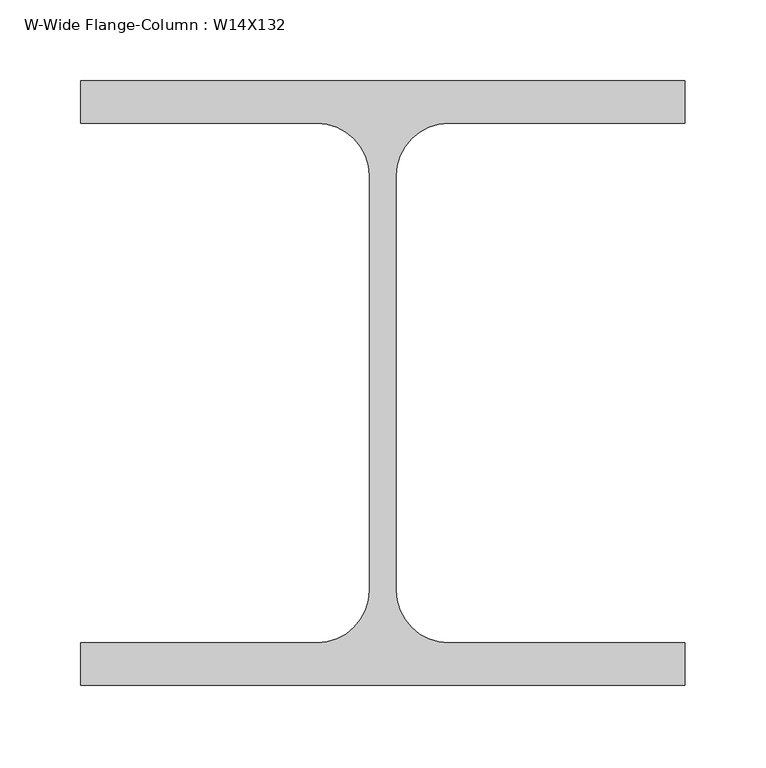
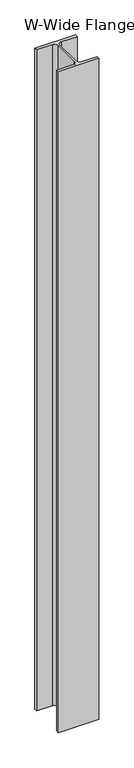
"""IFC4 building model written with IfcOpenShell, lengths in millimetres: column geometry, W-Wide Flange-Column : W14X132."""

from ifc_helpers import new_model, si_unit, point, frame, frame_2d, origin, place, context, project, spatial, polyline, circle_curve, trimmed, segment, composite_curve, outline, extrude, source, transform, mapped, element, save


def w_wide_flange_column_w14x132_b8660559(model_context):
    return source(origin(), model_context, "Body", "SweptSolid", [
        extrude(outline(composite_curve([segment(polyline([(186.69, -186.69), (-186.69, -186.69), (-186.69, -160.528), (-40.767, -160.528)]), True, "CONTINUOUS"), segment(trimmed(circle_curve(frame_2d((-40.767, -127.9525)), 32.5755), [point((-40.767, -160.528))], [point((-8.1915, -127.9525))], True, "CARTESIAN"), True, "CONTINUOUS"), segment(polyline([(-8.1915, -127.9525), (-8.1915, 127.9525)]), True, "CONTINUOUS"), segment(trimmed(circle_curve(frame_2d((-40.767, 127.9525)), 32.5755), [point((-8.1915, 127.9525))], [point((-40.767, 160.528))], True, "CARTESIAN"), True, "CONTINUOUS"), segment(polyline([(-40.767, 160.528), (-186.69, 160.528), (-186.69, 186.69), (186.69, 186.69), (186.69, 160.528), (40.767, 160.528)]), True, "CONTINUOUS"), segment(trimmed(circle_curve(frame_2d((40.767, 127.9525)), 32.5755), [point((40.767, 160.528))], [point((8.1915, 127.9525))], True, "CARTESIAN"), True, "CONTINUOUS"), segment(polyline([(8.1915, 127.9525), (8.1915, -127.9525)]), True, "CONTINUOUS"), segment(trimmed(circle_curve(frame_2d((40.767, -127.9525)), 32.5755), [point((8.1915, -127.9525))], [point((40.767, -160.528))], True, "CARTESIAN"), True, "CONTINUOUS"), segment(polyline([(40.767, -160.528), (186.69, -160.528), (186.69, -186.69)]), True, "CONTINUOUS")], self_intersect=False)), frame((0.0, 0.0, -457.2), z_axis=(0.0, 0.0, 1.0), x_axis=(1.0, 0.0, 0.0)), (0.0, 0.0, 1.0), 6426.2),
    ])


if __name__ == "__main__":
    model = new_model("IFC4")
    model_context = context("Model", 3, world=origin())
    ifc_project = project(units=[si_unit("LENGTHUNIT", "METRE", prefix="MILLI")], contexts=[model_context])
    site = spatial("IfcSite", under=ifc_project)
    building = spatial("IfcBuilding", under=site)
    placement = place(None, origin())
    w_wide_flange_column_w14x132_shape = w_wide_flange_column_w14x132_b8660559(model_context)
    element("IfcColumn", 1, ObjectType="W-Wide Flange-Column : W14X132", at=placement, inside=building, context=model_context, shape_type="MappedRepresentation", body=[
        mapped(w_wide_flange_column_w14x132_shape, transform((0.0, 0.0, 0.0), x_axis=(1.0, 0.0, 0.0), y_axis=(0.0, 1.0, 0.0), z_axis=(0.0, 0.0, 1.0))),
    ])
    save(model, "model.ifc")
